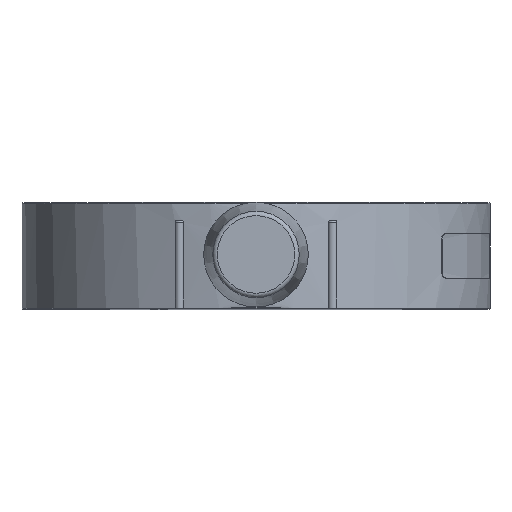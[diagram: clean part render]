
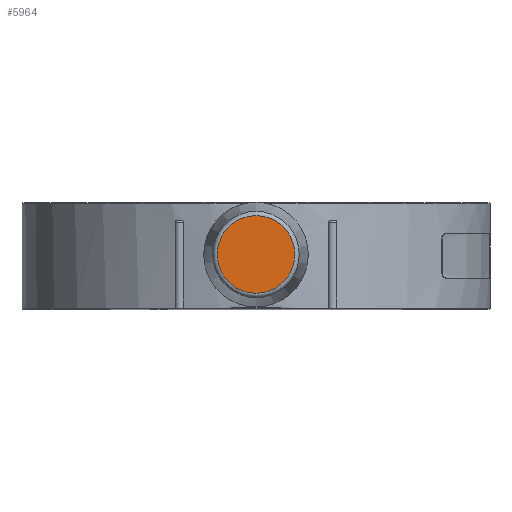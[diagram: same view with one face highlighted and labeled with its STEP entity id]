
A CAD part, top view. The second image highlights one B-rep face of the part: STEP entity #5964.
In plain terms, the highlighted planar face has unit normal (0, 0, 1).
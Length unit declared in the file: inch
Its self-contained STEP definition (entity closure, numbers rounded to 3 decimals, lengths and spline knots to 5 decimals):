
#157=CIRCLE('',#6308,0.437);
#688=FACE_OUTER_BOUND('',#1070,.T.);
#1070=EDGE_LOOP('',(#4668));
#2673=VERTEX_POINT('',#9934);
#3367=EDGE_CURVE('',#2673,#2673,#157,.T.);
#4668=ORIENTED_EDGE('',*,*,#3367,.F.);
#5772=PLANE('',#6307);
#5964=ADVANCED_FACE('',(#688),#5772,.F.);
#6307=AXIS2_PLACEMENT_3D('',#9933,#7163,#7164);
#6308=AXIS2_PLACEMENT_3D('',#9935,#7165,#7166);
#7163=DIRECTION('center_axis',(0.,0.,-1.));
#7164=DIRECTION('ref_axis',(-1.,0.,0.));
#7165=DIRECTION('center_axis',(0.,0.,-1.));
#7166=DIRECTION('ref_axis',(1.,0.,0.));
#9933=CARTESIAN_POINT('Origin',(0.,0.60951,4.7875));
#9934=CARTESIAN_POINT('',(0.437,0.60951,4.7875));
#9935=CARTESIAN_POINT('Origin',(0.,0.60951,4.7875));
